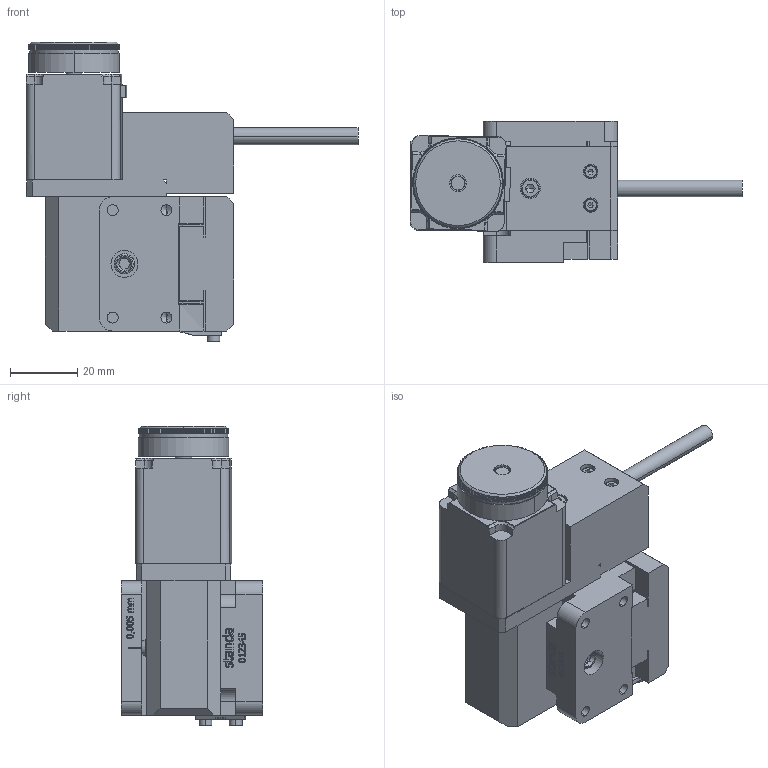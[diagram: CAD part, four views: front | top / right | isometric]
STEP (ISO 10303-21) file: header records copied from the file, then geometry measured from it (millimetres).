
FILE_DESCRIPTION (( 'STEP AP203' ), '1' );
FILE_NAME ('8MVT40-13.STEP', '2009-10-09T08:32:07', ( 'Darius' ), ( '' ), 'SwSTEP 2.0', 'SolidWorks 2003240', '' );
FILE_SCHEMA (( 'CONFIG_CONTROL_DESIGN' ));
Products named in the file (1): 8MVT40-13
Bounding box: 98.84 x 42 x 89.2 mm (x, y, z)
Volume: 129299.9 mm3; surface area: 32475.5 mm2
Topology: 1 solids, 20 shells, 1917 faces, 5210 edges, 3337 vertices
Faces by surface type: plane 919, cylinder 595, bspline 324, cone 79
Entity records: 70802 total; most frequent: CARTESIAN_POINT 25369, ORIENTED_EDGE 10228, DIRECTION 8233, EDGE_CURVE 5114, VERTEX_POINT 3337, AXIS2_PLACEMENT_3D 2814, VECTOR 2605, LINE 2605
